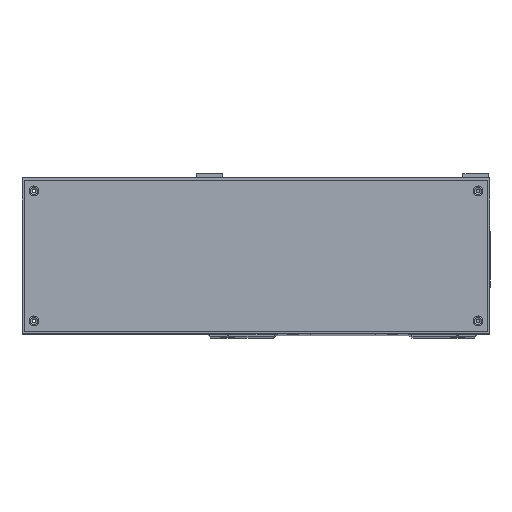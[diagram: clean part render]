
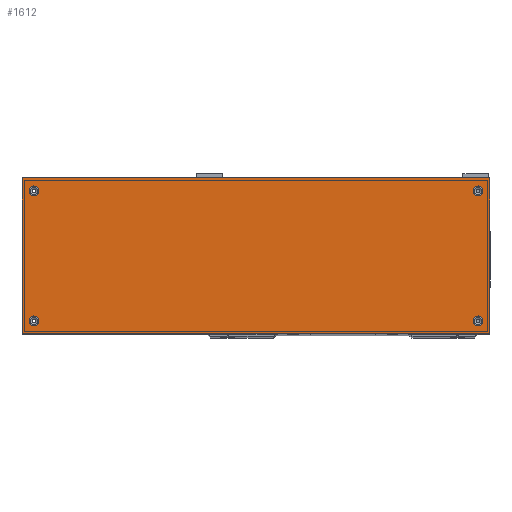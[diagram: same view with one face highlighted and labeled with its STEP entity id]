
A CAD part, top view. The second image highlights one B-rep face of the part: STEP entity #1612.
In plain terms, the highlighted planar face has unit normal (0, 0, 1).
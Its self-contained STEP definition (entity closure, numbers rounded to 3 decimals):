
#1612=ADVANCED_FACE('',(#4958,#4959,#4960,#4961,#4962),#2300,.F.);
#2300=PLANE('',#16019);
#3026=LINE('',#23890,#4112);
#3034=LINE('',#23905,#4120);
#3143=LINE('',#24565,#4229);
#3150=LINE('',#24582,#4236);
#4112=VECTOR('',#18547,1.);
#4120=VECTOR('',#18563,1.);
#4229=VECTOR('',#19014,1.);
#4236=VECTOR('',#19027,1.);
#4958=FACE_BOUND('',#5983,.T.);
#4959=FACE_BOUND('',#5984,.T.);
#4960=FACE_BOUND('',#5985,.T.);
#4961=FACE_BOUND('',#5986,.T.);
#4962=FACE_BOUND('',#5987,.T.);
#5983=EDGE_LOOP('',(#8705));
#5984=EDGE_LOOP('',(#8706));
#5985=EDGE_LOOP('',(#8707));
#5986=EDGE_LOOP('',(#8708));
#5987=EDGE_LOOP('',(#8709,#8710,#8711,#8712));
#8705=ORIENTED_EDGE('',*,*,#13464,.F.);
#8706=ORIENTED_EDGE('',*,*,#13466,.F.);
#8707=ORIENTED_EDGE('',*,*,#13468,.F.);
#8708=ORIENTED_EDGE('',*,*,#13470,.F.);
#8709=ORIENTED_EDGE('',*,*,#13251,.F.);
#8710=ORIENTED_EDGE('',*,*,#13480,.F.);
#8711=ORIENTED_EDGE('',*,*,#13471,.F.);
#8712=ORIENTED_EDGE('',*,*,#13260,.F.);
#11562=VERTEX_POINT('',#23889);
#11563=VERTEX_POINT('',#23891);
#11566=VERTEX_POINT('',#23906);
#11700=VERTEX_POINT('',#24548);
#11702=VERTEX_POINT('',#24553);
#11704=VERTEX_POINT('',#24558);
#11706=VERTEX_POINT('',#24563);
#11707=VERTEX_POINT('',#24566);
#13251=EDGE_CURVE('',#11562,#11563,#3026,.T.);
#13260=EDGE_CURVE('',#11563,#11566,#3034,.T.);
#13464=EDGE_CURVE('',#11700,#11700,#14878,.T.);
#13466=EDGE_CURVE('',#11702,#11702,#14880,.T.);
#13468=EDGE_CURVE('',#11704,#11704,#14882,.T.);
#13470=EDGE_CURVE('',#11706,#11706,#14884,.T.);
#13471=EDGE_CURVE('',#11566,#11707,#3143,.T.);
#13480=EDGE_CURVE('',#11707,#11562,#3150,.T.);
#14878=CIRCLE('',#16004,2.25);
#14880=CIRCLE('',#16007,2.25);
#14882=CIRCLE('',#16010,2.25);
#14884=CIRCLE('',#16013,2.25);
#16004=AXIS2_PLACEMENT_3D('',#24547,#18992,#18993);
#16007=AXIS2_PLACEMENT_3D('',#24552,#18998,#18999);
#16010=AXIS2_PLACEMENT_3D('',#24557,#19004,#19005);
#16013=AXIS2_PLACEMENT_3D('',#24562,#19010,#19011);
#16019=AXIS2_PLACEMENT_3D('',#24589,#19033,#19034);
#18547=DIRECTION('',(0.,-1.,0.));
#18563=DIRECTION('',(-1.,0.,0.));
#18992=DIRECTION('',(0.,0.,1.));
#18993=DIRECTION('',(-1.,0.,0.));
#18998=DIRECTION('',(0.,0.,1.));
#18999=DIRECTION('',(1.,0.,0.));
#19004=DIRECTION('',(0.,0.,1.));
#19005=DIRECTION('',(-1.,0.,0.));
#19010=DIRECTION('',(0.,0.,1.));
#19011=DIRECTION('',(1.,0.,0.));
#19014=DIRECTION('',(0.,1.,0.));
#19027=DIRECTION('',(1.,0.,0.));
#19033=DIRECTION('',(0.,0.,-1.));
#19034=DIRECTION('',(1.,0.,0.));
#23889=CARTESIAN_POINT('',(68.,72.,193.));
#23890=CARTESIAN_POINT('',(68.,72.,193.));
#23891=CARTESIAN_POINT('',(68.,0.,193.));
#23905=CARTESIAN_POINT('',(68.,0.,193.));
#23906=CARTESIAN_POINT('',(-148.,0.,193.));
#24547=CARTESIAN_POINT('',(-142.5,6.,193.));
#24548=CARTESIAN_POINT('',(-144.75,6.,193.));
#24552=CARTESIAN_POINT('',(62.5,6.,193.));
#24553=CARTESIAN_POINT('',(64.75,6.,193.));
#24557=CARTESIAN_POINT('',(62.5,66.,193.));
#24558=CARTESIAN_POINT('',(60.25,66.,193.));
#24562=CARTESIAN_POINT('',(-142.5,66.,193.));
#24563=CARTESIAN_POINT('',(-140.25,66.,193.));
#24565=CARTESIAN_POINT('',(-148.,72.,193.));
#24566=CARTESIAN_POINT('',(-148.,72.,193.));
#24582=CARTESIAN_POINT('',(68.,72.,193.));
#24589=CARTESIAN_POINT('',(-40.,36.,193.));
